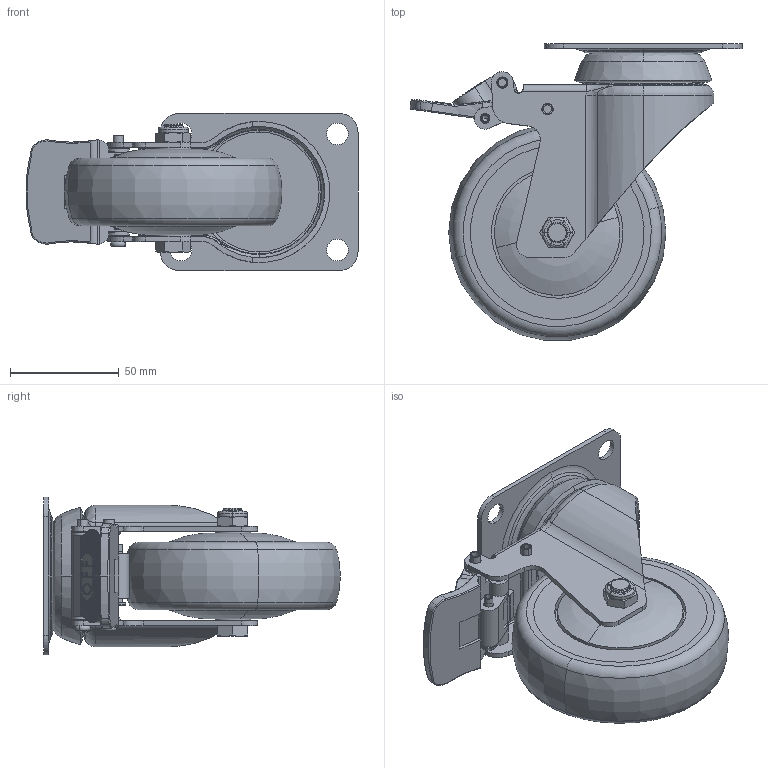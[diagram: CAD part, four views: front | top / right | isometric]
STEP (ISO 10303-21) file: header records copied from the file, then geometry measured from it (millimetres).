
FILE_DESCRIPTION (( 'STEP AP203' ), '1' );
FILE_NAME ('4110604004106-4.STEP', '2024-12-05T06:50:21', ( '' ), ( '' ), 'SwSTEP 2.0', 'SolidWorks 2019', '' );
FILE_SCHEMA (( 'CONFIG_CONTROL_DESIGN' ));
Length unit declared in the file: millimetre
Products named in the file (13): 4201044901-3''''4''''5''''儀器輪用煞車空心鉚釘(4.8x49.5L) 20210708; 4201043401-3''''4''''5''''儀器架用煞車鉚釘-壓直花(4x34L) 20210708; 210617040023 祸竟蛮焚今狾OFF(New琜ノ) 20180129; 4110604004106-4; 210614040015 4儀器輪前煞架 -展示用; 4502090003 尼龍螺帽 20190422; 4202095401 45儀器及高級活動車心54長20200610A6; 210617040022 祸竟蛮焚今狾ON(New琜ノ) 20180129; 4201042601 4''''.5''''儀器架剎車彈片用鉚釘 20210708; 211115030007-高級活動上珠碗-展示用; 4201141902 高級架用底板鉚釘 20210621; 210612040008 儀器圓孔底板 20200806; 1246040013 導電PPR輪(單培林)-內黑外灰 20200528
Assembly tree (13 placements, depth 2):
  4110604004106-4
    210612040008 儀器圓孔底板 20200806
    211115030007-高級活動上珠碗-展示用
    4201141902 高級架用底板鉚釘 20210621
    210614040015 4儀器輪前煞架 -展示用
    1246040013 導電PPR輪(單培林)-內黑外灰 20200528
    210617040022 祸竟蛮焚今狾ON(New琜ノ) 20180129
    210617040023 祸竟蛮焚今狾OFF(New琜ノ) 20180129
    4201043401-3''''4''''5''''儀器架用煞車鉚釘-壓直花(4x34L) 20210708
    4201042601 4''''.5''''儀器架剎車彈片用鉚釘 20210708
    4201044901-3''''4''''5''''儀器輪用煞車空心鉚釘(4.8x49.5L) 20210708  x2
    4202095401 45儀器及高級活動車心54長20200610A6
    4502090003 尼龍螺帽 20190422
Bounding box: 152.79 x 136.6 x 72.6 mm (x, y, z)
Volume: 366998.8 mm3; surface area: 113057.2 mm2
Topology: 14 solids, 14 shells, 692 faces, 1737 edges, 1106 vertices
Faces by surface type: plane 295, cylinder 216, torus 71, bspline 62, cone 48
Entity records: 26551 total; most frequent: CARTESIAN_POINT 8947, ORIENTED_EDGE 3434, DIRECTION 3352, EDGE_CURVE 1717, AXIS2_PLACEMENT_3D 1261, VERTEX_POINT 1094, VECTOR 830, LINE 830
